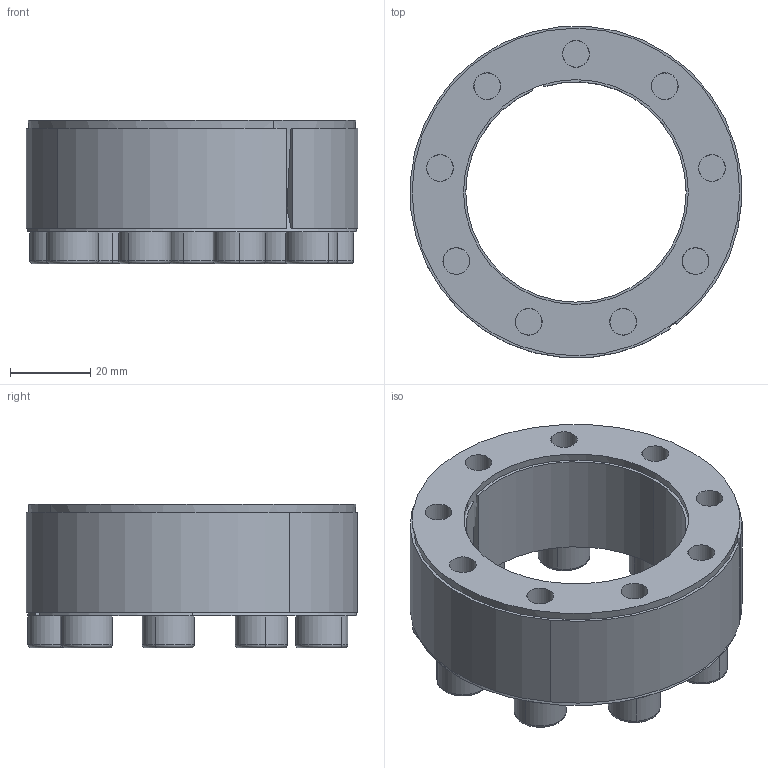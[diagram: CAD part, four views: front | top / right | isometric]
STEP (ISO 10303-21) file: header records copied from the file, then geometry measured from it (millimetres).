
FILE_DESCRIPTION (( 'STEP AP214' ), '1' );
FILE_NAME ('CONEX-L-55x83.step', '2013-04-06T13:23:02', ( 'Pc' ), ( '' ), 'SwSTEP 2.0', 'SolidWorks 2013', '' );
FILE_SCHEMA (( 'AUTOMOTIVE_DESIGN' ));
Length unit declared in the file: millimetre
Products named in the file (1): CONEX-L-55x83
Bounding box: 82.8 x 82.73 x 35.97 mm (x, y, z)
Volume: 82140.9 mm3; surface area: 54305.7 mm2
Topology: 12 solids, 12 shells, 318 faces, 727 edges, 433 vertices
Faces by surface type: plane 146, cylinder 84, cone 52, torus 36
Entity records: 12538 total; most frequent: DIRECTION 1680, CARTESIAN_POINT 1494, ORIENTED_EDGE 1418, EDGE_CURVE 709, AXIS2_PLACEMENT_3D 660, VERTEX_POINT 433, EDGE_LOOP 380, VECTOR 360
